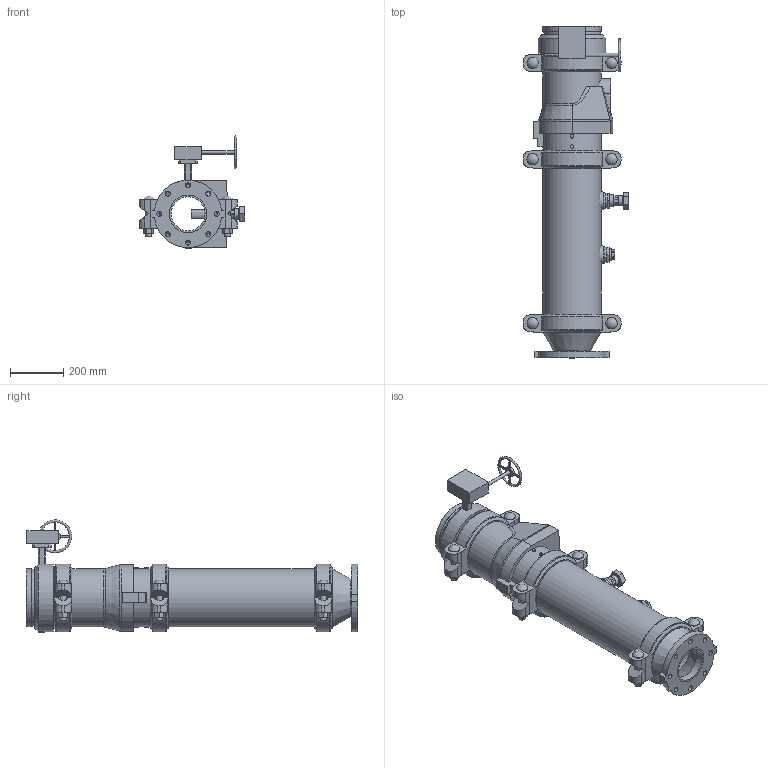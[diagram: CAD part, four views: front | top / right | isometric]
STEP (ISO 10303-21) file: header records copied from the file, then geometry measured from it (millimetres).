
FILE_DESCRIPTION(/* description */ ('VIC DVI PUMP DROP VERT S/380 (OGSxFLG) (S/924-1.25)','CAx-IF Rec.Pracs.---Representation and Presentation of Product Manufacturing Information (PMI)---4.0---2014-10-13'),/* implementation_level */ '2;1');
FILE_NAME(/* name */ 'C:\Users\Public\Documents\Victaulic.Temp\A765\Victaulic_IPS_Vertical DVI_CL 150_Series 380 (OGSxFLG)_924 (1.25)_08.0x05.0 (200x125).stp',/* time_stamp */ '2022-07-25T11:13:23+02:00',/* author */ ('Vjadhav'),/* organization */ ('Victaulic'),/* preprocessor_version */ 'ST-DEVELOPER v18',/* originating_system */ 'Autodesk Inventor 2020',/* authorisation */ '');
FILE_SCHEMA (('AP242_MANAGED_MODEL_BASED_3D_ENGINEERING_MIM_LF { 1 0 10303 442 1 1 4 }'));
Length unit declared in the file: inch
Products named in the file (9): 380_924 (1.25)-08.0x05.0; 741-05.0; 050-08.0x05.0; Pipe-08.0; 177N-08.0; 779-08.0; 923-04.0x0.75; 924-04.0x01.25; 761-08.0
Assembly tree (10 placements, depth 2):
  380_924 (1.25)-08.0x05.0
    741-05.0
    050-08.0x05.0
    177N-08.0  x3
    Pipe-08.0
    779-08.0
    923-04.0x0.75
    924-04.0x01.25
    761-08.0
Bounding box: 398.56 x 1249.43 x 422.39 mm (x, y, z)
Volume: 16838685.4 mm3; surface area: 2672742.6 mm2
Topology: 10 solids, 12 shells, 579 faces, 1540 edges, 1029 vertices
Faces by surface type: plane 350, cylinder 182, cone 20, torus 19, sphere 6, bspline 2
Full cylindrical faces by diameter (mm): 8.636 x4, 12.446 x1, 12.7 x1, 13.716 x4, 19.05 x8, 21.336 x1, 22.225 x6, 22.86 x1, 26.67 x2, 38.608 x1, 39.125 x1, 42.164 x1, 42.85 x6, 45.974 x4, 48.514 x1, 55.118 x1, 55.626 x2, 128.194 x1, 137.033 x1, 141.3 x3, 202.717 x4, 206.375 x3, 214.401 x7, 219.075 x19, 254 x1
Entity records: 13893 total; most frequent: CARTESIAN_POINT 2891, DIRECTION 2247, ORIENTED_EDGE 2076, EDGE_CURVE 1038, AXIS2_PLACEMENT_3D 853, VERTEX_POINT 701, LINE 541, VECTOR 541
